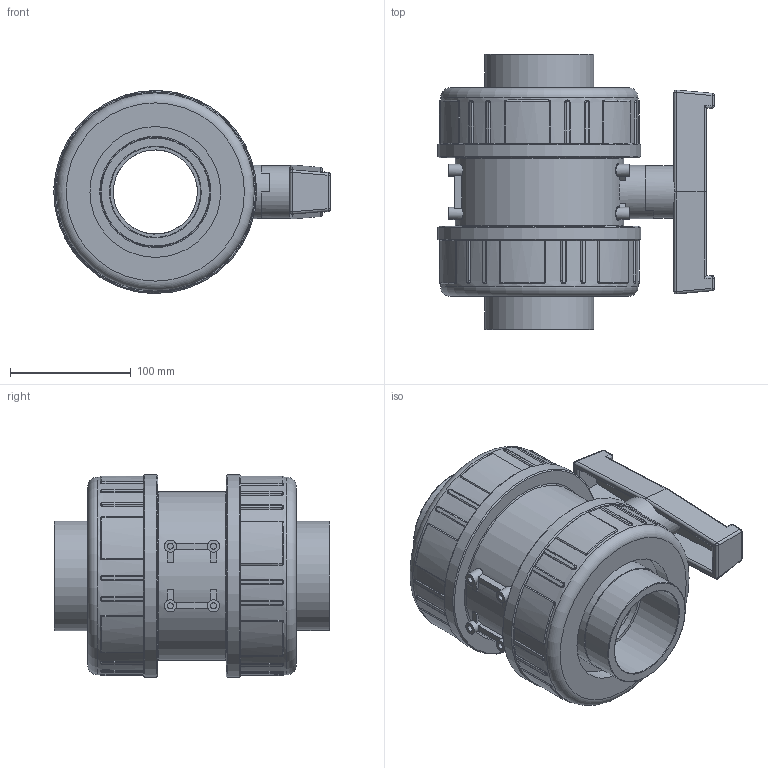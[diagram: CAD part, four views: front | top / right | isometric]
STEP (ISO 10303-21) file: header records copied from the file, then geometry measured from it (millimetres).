
FILE_DESCRIPTION(/* description */ (''),/* implementation_level */ '2;1');
FILE_NAME(/* name */ 'C:\Users\POLYPIPE\Desktop\DATASET INVENTOR\LIBRERIA EFFAST\3D_VALVOLE\3D_VALVOLE A SFERA\3D_BK1\3D_BDRBK1D\3D_BDRBK1D0750.stp',/* time_stamp */ '2018-01-23T15:37:21+01:00',/* author */ ('POLYPIPE'),/* organization */ (''),/* preprocessor_version */ 'ST-DEVELOPER v16.1',/* originating_system */ 'Autodesk Inventor 2016',/* authorisation */ '');
FILE_SCHEMA (('CONFIG_CONTROL_DESIGN'));
Products named in the file (1): 3D_BDRBK1D0750
Bounding box: 228.75 x 228 x 168 mm (x, y, z)
Volume: 2632600.8 mm3; surface area: 375741.9 mm2
Topology: 2 solids, 3 shells, 562 faces, 1400 edges, 875 vertices
Faces by surface type: plane 186, cylinder 182, bspline 152, torus 26, sphere 12, cone 4
Full cylindrical faces by diameter (mm): 5 x8, 10 x8, 29.8 x1, 43.5 x1, 44.1 x1, 69.7 x2, 75 x2, 76.8 x1, 90.5 x2, 92 x2, 108.2 x2, 132 x2, 137 x2, 139.5 x1, 142.5 x2, 163.5 x2, 168 x2
Entity records: 60913 total; most frequent: CARTESIAN_POINT 47837, ORIENTED_EDGE 2654, DIRECTION 2392, EDGE_CURVE 1327, AXIS2_PLACEMENT_3D 916, VERTEX_POINT 859, EDGE_LOOP 654, STYLED_ITEM 564
